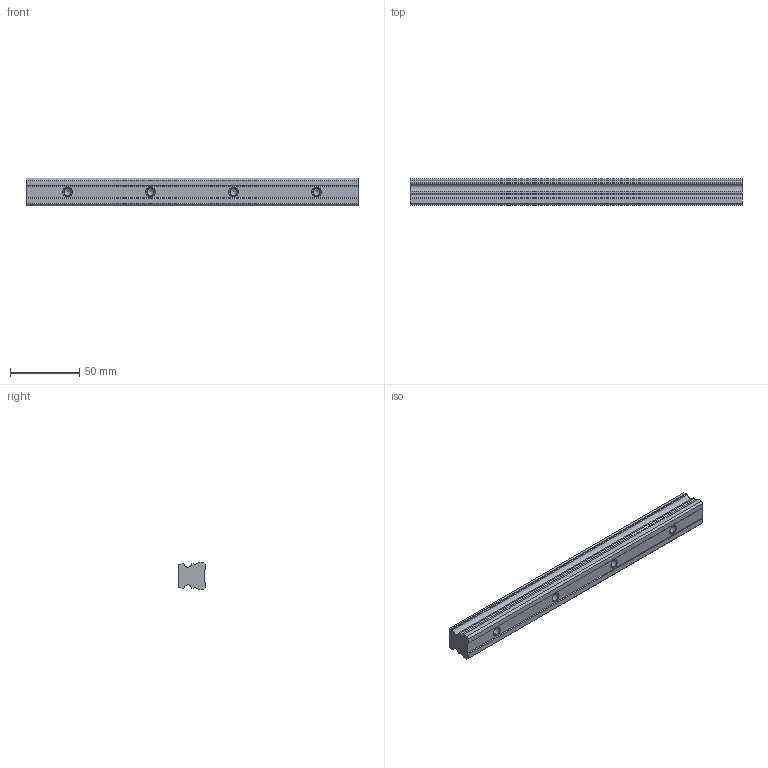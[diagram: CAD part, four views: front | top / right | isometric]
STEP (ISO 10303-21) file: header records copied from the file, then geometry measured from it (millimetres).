
FILE_DESCRIPTION (( 'STEP AP203' ), '1' );
FILE_NAME ('L1018.20R-0240.step', '2023-08-06T09:04:28', ( '' ), ( '' ), 'SwSTEP 2.0', 'SolidWorks 2019', '' );
FILE_SCHEMA (( 'CONFIG_CONTROL_DESIGN' ));
Length unit declared in the file: millimetre
Products named in the file (1): L1018.20R-0240
Bounding box: 240 x 19.3 x 20 mm (x, y, z)
Volume: 76110.8 mm3; surface area: 20899.1 mm2
Topology: 1 solids, 1 shells, 65 faces, 161 edges, 98 vertices
Faces by surface type: plane 30, cylinder 19, cone 16
Entity records: 1934 total; most frequent: DIRECTION 331, CARTESIAN_POINT 317, ORIENTED_EDGE 306, EDGE_CURVE 153, AXIS2_PLACEMENT_3D 112, LINE 107, VECTOR 107, VERTEX_POINT 98
